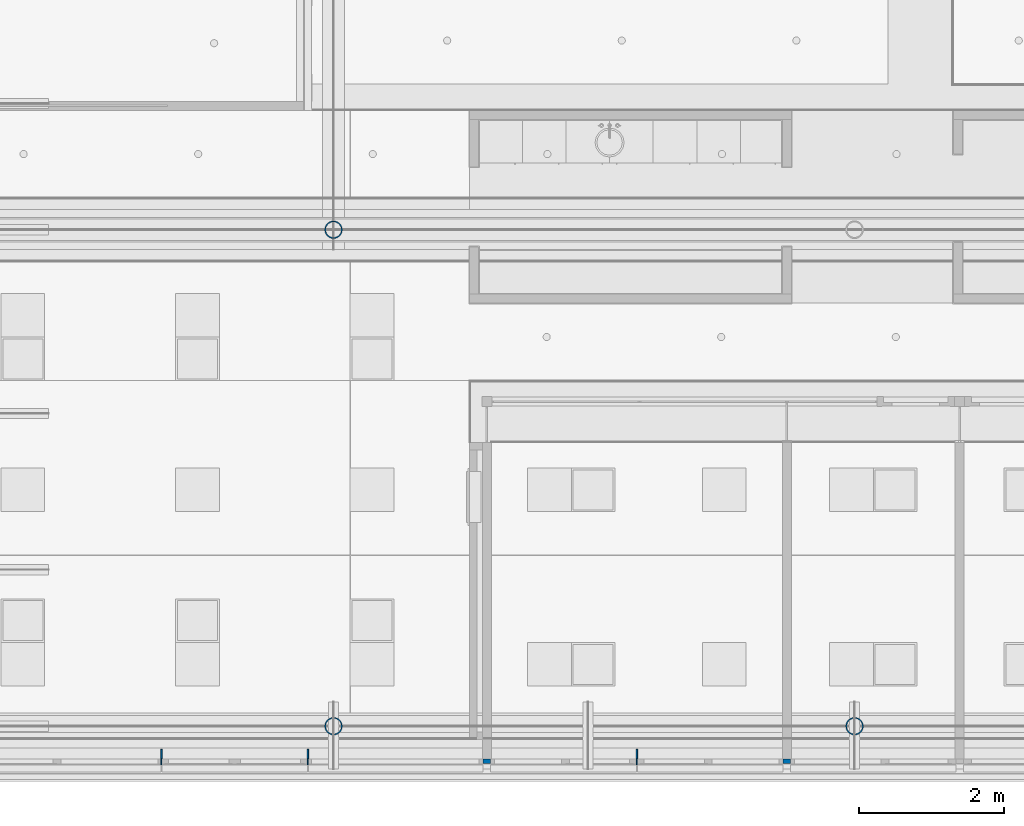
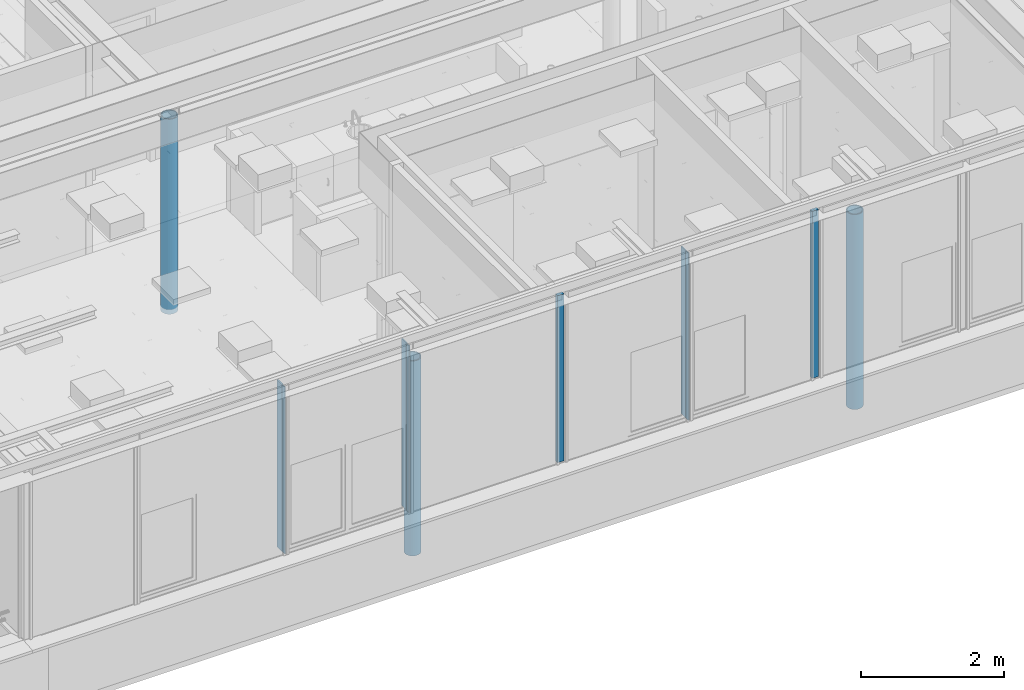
# One storey, part 7 of 260: 11 columns.
"""IFC2X3 building model written with IfcOpenShell, lengths in millimetres."""

from ifc_helpers import new_model, entity, si_unit, converted_unit, derived_unit, money_unit, direction, frame, origin_with_axes, place, context, subcontext, project, spatial, faceted_brep, material, type_object, element, save


model = new_model("IFC2X3")

# Units and contexts
model_context = context("Model", 3, precision=0.01, world=origin_with_axes(), true_north=direction((0.0, 1.0)))
plan_context = context("Plan", 3, precision=0.01, world=origin_with_axes(), true_north=direction((0.0, 1.0)))
body_context = subcontext(model_context, "Body", "Model", "MODEL_VIEW")
ifc_project = project(units=[si_unit("LENGTHUNIT", "METRE", prefix="MILLI"), si_unit("AREAUNIT", "SQUARE_METRE"), si_unit("VOLUMEUNIT", "CUBIC_METRE"), converted_unit("PLANEANGLEUNIT", "DEGREE", entity("IfcPlaneAngleMeasure", 0.0174532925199), si_unit("PLANEANGLEUNIT", "RADIAN"), dimensions=[0, 0, 0, 0, 0, 0, 0]), money_unit("EUR"), converted_unit("TIMEUNIT", "Year", entity("IfcTimeMeasure", 31556926.0), si_unit("TIMEUNIT", "SECOND"), dimensions=[0, 0, 1, 0, 0, 0, 0]), si_unit("MASSUNIT", "GRAM", prefix="KILO"), si_unit("THERMODYNAMICTEMPERATUREUNIT", "DEGREE_CELSIUS"), si_unit("LUMINOUSINTENSITYUNIT", "LUMEN"), si_unit("ENERGYUNIT", "JOULE", prefix="MEGA"), derived_unit("THERMALCONDUCTANCEUNIT", [(si_unit("POWERUNIT", "WATT"), 1), (si_unit("LENGTHUNIT", "METRE"), -1), (si_unit("THERMODYNAMICTEMPERATUREUNIT", "KELVIN"), -1)]), derived_unit("SPECIFICHEATCAPACITYUNIT", [(si_unit("ENERGYUNIT", "JOULE"), 1), (si_unit("MASSUNIT", "GRAM", prefix="KILO"), -1), (si_unit("THERMODYNAMICTEMPERATUREUNIT", "KELVIN"), -1)]), derived_unit("MASSDENSITYUNIT", [(si_unit("MASSUNIT", "GRAM", prefix="KILO"), 1), (si_unit("VOLUMEUNIT", "CUBIC_METRE"), -1)])], contexts=[model_context, plan_context])

# Site, building, storey
site_placement = place(None, origin_with_axes())
site = spatial("IfcSite", under=ifc_project, at=site_placement, Name="Site", CompositionType="ELEMENT")
building_placement = place(site_placement, origin_with_axes())
building = spatial("IfcBuilding", under=site, at=building_placement, Name="Naam gebouw", CompositionType="ELEMENT")
storey_placement = place(building_placement, frame((0.0, 0.0, 3960.0), z_axis=(0.0, 0.0, 1.0), x_axis=(1.0, 0.0, 0.0)))
storey = spatial("IfcBuildingStorey", under=building, at=storey_placement, Name="verdieping", CompositionType="ELEMENT", Elevation=3960.0)

# Columns
ifc_material_1 = material(Name="Metaal - Staal C wit")
column_type_1 = type_object("IfcColumnType", Name="Lucht D245", PredefinedType="COLUMN")
column_1_placement = place(storey_placement, frame((24575.0, 12125.0, -80.0), z_axis=(0.0, 0.0, 1.0), x_axis=(1.0, 0.0, 0.0)))
element("IfcColumn", 1, at=column_1_placement, inside=storey, type_object=column_type_1, material=ifc_material_1, Name="28_kolom ø 273mm", ObjectType="COLUMN", context=body_context, shape_type="Brep", body=[
    faceted_brep([(119.184937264, 27.2031841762, 0.0), (110.143444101, 53.0422871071, 0.0), (110.143444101, 53.0422871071, 3340.0), (119.184937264, 27.2031841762, 3340.0), (122.25, 0.0, 0.0), (119.184937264, -27.2031841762, 0.0), (110.143444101, -53.0422871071, 0.0), (95.5788987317, -76.2216282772, 0.0), (76.2216282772, -95.5788987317, 0.0), (53.0422871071, -110.143444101, 0.0), (27.2031841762, -119.184937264, 0.0), (0.0, -122.25, 0.0), (-27.2031841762, -119.184937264, 0.0), (-53.0422871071, -110.143444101, 0.0), (-76.2216282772, -95.5788987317, 0.0), (-95.5788987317, -76.2216282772, 0.0), (-110.143444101, -53.0422871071, 0.0), (-119.184937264, -27.2031841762, 0.0), (-122.25, 0.0, 0.0), (-119.184937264, 27.2031841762, 0.0), (-110.143444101, 53.0422871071, 0.0), (-95.5788987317, 76.2216282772, 0.0), (-76.2216282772, 95.5788987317, 0.0), (-53.0422871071, 110.143444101, 0.0), (-27.2031841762, 119.184937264, 0.0), (0.0, 122.25, 0.0), (27.2031841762, 119.184937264, 0.0), (53.0422871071, 110.143444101, 0.0), (76.2216282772, 95.5788987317, 0.0), (95.5788987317, 76.2216282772, 0.0), (102.629619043, -27.4995235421, 0.0), (106.25, 0.0, 0.0), (102.629619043, 27.4995235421, 0.0), (92.0151991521, 53.125, 0.0), (75.1300955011, 75.1300955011, 0.0), (53.125, 92.0151991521, 0.0), (27.4995235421, 102.629619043, 0.0), (0.0, 106.25, 0.0), (-27.4995235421, 102.629619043, 0.0), (-53.125, 92.0151991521, 0.0), (-75.1300955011, 75.1300955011, 0.0), (-92.0151991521, 53.125, 0.0), (-102.629619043, 27.4995235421, 0.0), (-106.25, 0.0, 0.0), (-102.629619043, -27.4995235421, 0.0), (-92.0151991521, -53.125, 0.0), (-75.1300955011, -75.1300955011, 0.0), (-53.125, -92.0151991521, 0.0), (-27.4995235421, -102.629619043, 0.0), (0.0, -106.25, 0.0), (27.4995235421, -102.629619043, 0.0), (53.125, -92.0151991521, 0.0), (75.1300955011, -75.1300955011, 0.0), (92.0151991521, -53.125, 0.0), (95.5788987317, 76.2216282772, 3340.0), (76.2216282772, 95.5788987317, 3340.0), (53.0422871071, 110.143444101, 3340.0), (27.2031841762, 119.184937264, 3340.0), (0.0, 122.25, 3340.0), (-27.2031841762, 119.184937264, 3340.0), (-53.0422871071, 110.143444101, 3340.0), (-76.2216282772, 95.5788987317, 3340.0), (-95.5788987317, 76.2216282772, 3340.0), (-110.143444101, 53.0422871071, 3340.0), (-119.184937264, 27.2031841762, 3340.0), (-122.25, 0.0, 3340.0), (-119.184937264, -27.2031841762, 3340.0), (-110.143444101, -53.0422871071, 3340.0), (-95.5788987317, -76.2216282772, 3340.0), (-76.2216282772, -95.5788987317, 3340.0), (-53.0422871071, -110.143444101, 3340.0), (-27.2031841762, -119.184937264, 3340.0), (0.0, -122.25, 3340.0), (27.2031841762, -119.184937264, 3340.0), (53.0422871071, -110.143444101, 3340.0), (76.2216282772, -95.5788987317, 3340.0), (95.5788987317, -76.2216282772, 3340.0), (110.143444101, -53.0422871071, 3340.0), (119.184937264, -27.2031841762, 3340.0), (122.25, 0.0, 3340.0), (102.629619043, -27.4995235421, 3340.0), (92.0151991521, -53.125, 3340.0), (75.1300955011, -75.1300955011, 3340.0), (53.125, -92.0151991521, 3340.0), (27.4995235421, -102.629619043, 3340.0), (0.0, -106.25, 3340.0), (-27.4995235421, -102.629619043, 3340.0), (-53.125, -92.0151991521, 3340.0), (-75.1300955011, -75.1300955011, 3340.0), (-92.0151991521, -53.125, 3340.0), (-102.629619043, -27.4995235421, 3340.0), (-106.25, 0.0, 3340.0), (-102.629619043, 27.4995235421, 3340.0), (-92.0151991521, 53.125, 3340.0), (-75.1300955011, 75.1300955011, 3340.0), (-53.125, 92.0151991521, 3340.0), (-27.4995235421, 102.629619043, 3340.0), (0.0, 106.25, 3340.0), (27.4995235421, 102.629619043, 3340.0), (53.125, 92.0151991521, 3340.0), (75.1300955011, 75.1300955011, 3340.0), (92.0151991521, 53.125, 3340.0), (102.629619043, 27.4995235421, 3340.0), (106.25, 0.0, 3340.0)], [[[0, 1, 2, 3]], [[0, 4, 5, 6, 7, 8, 9, 10, 11, 12, 13, 14, 15, 16, 17, 18, 19, 20, 21, 22, 23, 24, 25, 26, 27, 28, 29, 1], [30, 31, 32, 33, 34, 35, 36, 37, 38, 39, 40, 41, 42, 43, 44, 45, 46, 47, 48, 49, 50, 51, 52, 53]], [[1, 29, 54, 2]], [[3, 2, 54, 55, 56, 57, 58, 59, 60, 61, 62, 63, 64, 65, 66, 67, 68, 69, 70, 71, 72, 73, 74, 75, 76, 77, 78, 79], [80, 81, 82, 83, 84, 85, 86, 87, 88, 89, 90, 91, 92, 93, 94, 95, 96, 97, 98, 99, 100, 101, 102, 103]], [[4, 0, 3, 79]], [[5, 4, 79, 78]], [[6, 5, 78, 77]], [[7, 6, 77, 76]], [[8, 7, 76, 75]], [[9, 8, 75, 74]], [[10, 9, 74, 73]], [[11, 10, 73, 72]], [[12, 11, 72, 71]], [[13, 12, 71, 70]], [[14, 13, 70, 69]], [[15, 14, 69, 68]], [[16, 15, 68, 67]], [[17, 16, 67, 66]], [[18, 17, 66, 65]], [[19, 18, 65, 64]], [[20, 19, 64, 63]], [[21, 20, 63, 62]], [[22, 21, 62, 61]], [[23, 22, 61, 60]], [[24, 23, 60, 59]], [[25, 24, 59, 58]], [[26, 25, 58, 57]], [[27, 26, 57, 56]], [[28, 27, 56, 55]], [[29, 28, 55, 54]], [[31, 30, 80, 103]], [[32, 31, 103, 102]], [[33, 32, 102, 101]], [[34, 33, 101, 100]], [[35, 34, 100, 99]], [[36, 35, 99, 98]], [[37, 36, 98, 97]], [[38, 37, 97, 96]], [[39, 38, 96, 95]], [[40, 39, 95, 94]], [[41, 40, 94, 93]], [[42, 41, 93, 92]], [[43, 42, 92, 91]], [[44, 43, 91, 90]], [[45, 44, 90, 89]], [[46, 45, 89, 88]], [[47, 46, 88, 87]], [[48, 47, 87, 86]], [[49, 48, 86, 85]], [[50, 49, 85, 84]], [[51, 50, 84, 83]], [[52, 51, 83, 82]], [[53, 52, 82, 81]], [[30, 53, 81, 80]]]),
])
column_2_placement = place(storey_placement, frame((31737.5, 5300.0, -80.0), z_axis=(0.0, 0.0, 1.0), x_axis=(1.0, 0.0, 0.0)))
element("IfcColumn", 2, at=column_2_placement, inside=storey, type_object=column_type_1, material=ifc_material_1, Name="28_kolom ø 273mm", ObjectType="COLUMN", context=body_context, shape_type="Brep", body=[
    faceted_brep([(119.184937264, 27.2031841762, 0.0), (110.143444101, 53.0422871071, 0.0), (110.143444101, 53.0422871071, 3340.0), (119.184937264, 27.2031841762, 3340.0), (122.25, 0.0, 0.0), (119.184937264, -27.2031841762, 0.0), (110.143444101, -53.0422871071, 0.0), (95.5788987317, -76.2216282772, 0.0), (76.2216282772, -95.5788987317, 0.0), (53.0422871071, -110.143444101, 0.0), (27.2031841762, -119.184937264, 0.0), (0.0, -122.25, 0.0), (-27.2031841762, -119.184937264, 0.0), (-53.0422871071, -110.143444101, 0.0), (-76.2216282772, -95.5788987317, 0.0), (-95.5788987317, -76.2216282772, 0.0), (-110.143444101, -53.0422871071, 0.0), (-119.184937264, -27.2031841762, 0.0), (-122.25, 0.0, 0.0), (-119.184937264, 27.2031841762, 0.0), (-110.143444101, 53.0422871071, 0.0), (-95.5788987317, 76.2216282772, 0.0), (-76.2216282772, 95.5788987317, 0.0), (-53.0422871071, 110.143444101, 0.0), (-27.2031841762, 119.184937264, 0.0), (0.0, 122.25, 0.0), (27.2031841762, 119.184937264, 0.0), (53.0422871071, 110.143444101, 0.0), (76.2216282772, 95.5788987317, 0.0), (95.5788987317, 76.2216282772, 0.0), (102.629619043, -27.4995235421, 0.0), (106.25, 0.0, 0.0), (102.629619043, 27.4995235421, 0.0), (92.0151991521, 53.125, 0.0), (75.1300955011, 75.1300955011, 0.0), (53.125, 92.0151991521, 0.0), (27.4995235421, 102.629619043, 0.0), (0.0, 106.25, 0.0), (-27.4995235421, 102.629619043, 0.0), (-53.125, 92.0151991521, 0.0), (-75.1300955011, 75.1300955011, 0.0), (-92.0151991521, 53.125, 0.0), (-102.629619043, 27.4995235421, 0.0), (-106.25, 0.0, 0.0), (-102.629619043, -27.4995235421, 0.0), (-92.0151991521, -53.125, 0.0), (-75.1300955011, -75.1300955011, 0.0), (-53.125, -92.0151991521, 0.0), (-27.4995235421, -102.629619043, 0.0), (0.0, -106.25, 0.0), (27.4995235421, -102.629619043, 0.0), (53.125, -92.0151991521, 0.0), (75.1300955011, -75.1300955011, 0.0), (92.0151991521, -53.125, 0.0), (95.5788987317, 76.2216282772, 3340.0), (76.2216282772, 95.5788987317, 3340.0), (53.0422871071, 110.143444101, 3340.0), (27.2031841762, 119.184937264, 3340.0), (0.0, 122.25, 3340.0), (-27.2031841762, 119.184937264, 3340.0), (-53.0422871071, 110.143444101, 3340.0), (-76.2216282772, 95.5788987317, 3340.0), (-95.5788987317, 76.2216282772, 3340.0), (-110.143444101, 53.0422871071, 3340.0), (-119.184937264, 27.2031841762, 3340.0), (-122.25, 0.0, 3340.0), (-119.184937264, -27.2031841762, 3340.0), (-110.143444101, -53.0422871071, 3340.0), (-95.5788987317, -76.2216282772, 3340.0), (-76.2216282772, -95.5788987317, 3340.0), (-53.0422871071, -110.143444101, 3340.0), (-27.2031841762, -119.184937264, 3340.0), (0.0, -122.25, 3340.0), (27.2031841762, -119.184937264, 3340.0), (53.0422871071, -110.143444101, 3340.0), (76.2216282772, -95.5788987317, 3340.0), (95.5788987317, -76.2216282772, 3340.0), (110.143444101, -53.0422871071, 3340.0), (119.184937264, -27.2031841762, 3340.0), (122.25, 0.0, 3340.0), (102.629619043, -27.4995235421, 3340.0), (92.0151991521, -53.125, 3340.0), (75.1300955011, -75.1300955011, 3340.0), (53.125, -92.0151991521, 3340.0), (27.4995235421, -102.629619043, 3340.0), (0.0, -106.25, 3340.0), (-27.4995235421, -102.629619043, 3340.0), (-53.125, -92.0151991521, 3340.0), (-75.1300955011, -75.1300955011, 3340.0), (-92.0151991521, -53.125, 3340.0), (-102.629619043, -27.4995235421, 3340.0), (-106.25, 0.0, 3340.0), (-102.629619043, 27.4995235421, 3340.0), (-92.0151991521, 53.125, 3340.0), (-75.1300955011, 75.1300955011, 3340.0), (-53.125, 92.0151991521, 3340.0), (-27.4995235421, 102.629619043, 3340.0), (0.0, 106.25, 3340.0), (27.4995235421, 102.629619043, 3340.0), (53.125, 92.0151991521, 3340.0), (75.1300955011, 75.1300955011, 3340.0), (92.0151991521, 53.125, 3340.0), (102.629619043, 27.4995235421, 3340.0), (106.25, 0.0, 3340.0)], [[[0, 1, 2, 3]], [[0, 4, 5, 6, 7, 8, 9, 10, 11, 12, 13, 14, 15, 16, 17, 18, 19, 20, 21, 22, 23, 24, 25, 26, 27, 28, 29, 1], [30, 31, 32, 33, 34, 35, 36, 37, 38, 39, 40, 41, 42, 43, 44, 45, 46, 47, 48, 49, 50, 51, 52, 53]], [[1, 29, 54, 2]], [[3, 2, 54, 55, 56, 57, 58, 59, 60, 61, 62, 63, 64, 65, 66, 67, 68, 69, 70, 71, 72, 73, 74, 75, 76, 77, 78, 79], [80, 81, 82, 83, 84, 85, 86, 87, 88, 89, 90, 91, 92, 93, 94, 95, 96, 97, 98, 99, 100, 101, 102, 103]], [[4, 0, 3, 79]], [[5, 4, 79, 78]], [[6, 5, 78, 77]], [[7, 6, 77, 76]], [[8, 7, 76, 75]], [[9, 8, 75, 74]], [[10, 9, 74, 73]], [[11, 10, 73, 72]], [[12, 11, 72, 71]], [[13, 12, 71, 70]], [[14, 13, 70, 69]], [[15, 14, 69, 68]], [[16, 15, 68, 67]], [[17, 16, 67, 66]], [[18, 17, 66, 65]], [[19, 18, 65, 64]], [[20, 19, 64, 63]], [[21, 20, 63, 62]], [[22, 21, 62, 61]], [[23, 22, 61, 60]], [[24, 23, 60, 59]], [[25, 24, 59, 58]], [[26, 25, 58, 57]], [[27, 26, 57, 56]], [[28, 27, 56, 55]], [[29, 28, 55, 54]], [[31, 30, 80, 103]], [[32, 31, 103, 102]], [[33, 32, 102, 101]], [[34, 33, 101, 100]], [[35, 34, 100, 99]], [[36, 35, 99, 98]], [[37, 36, 98, 97]], [[38, 37, 97, 96]], [[39, 38, 96, 95]], [[40, 39, 95, 94]], [[41, 40, 94, 93]], [[42, 41, 93, 92]], [[43, 42, 92, 91]], [[44, 43, 91, 90]], [[45, 44, 90, 89]], [[46, 45, 89, 88]], [[47, 46, 88, 87]], [[48, 47, 87, 86]], [[49, 48, 86, 85]], [[50, 49, 85, 84]], [[51, 50, 84, 83]], [[52, 51, 83, 82]], [[53, 52, 82, 81]], [[30, 53, 81, 80]]]),
])
column_3_placement = place(storey_placement, frame((24575.0, 5300.0, -80.0), z_axis=(0.0, 0.0, 1.0), x_axis=(1.0, 0.0, 0.0)))
element("IfcColumn", 3, at=column_3_placement, inside=storey, type_object=column_type_1, material=ifc_material_1, Name="28_kolom ø 273mm", ObjectType="COLUMN", context=body_context, shape_type="Brep", body=[
    faceted_brep([(119.184937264, 27.2031841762, 0.0), (110.143444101, 53.0422871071, 0.0), (110.143444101, 53.0422871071, 3340.0), (119.184937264, 27.2031841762, 3340.0), (122.25, 0.0, 0.0), (119.184937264, -27.2031841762, 0.0), (110.143444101, -53.0422871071, 0.0), (95.5788987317, -76.2216282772, 0.0), (76.2216282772, -95.5788987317, 0.0), (53.0422871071, -110.143444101, 0.0), (27.2031841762, -119.184937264, 0.0), (0.0, -122.25, 0.0), (-27.2031841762, -119.184937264, 0.0), (-53.0422871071, -110.143444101, 0.0), (-76.2216282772, -95.5788987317, 0.0), (-95.5788987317, -76.2216282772, 0.0), (-110.143444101, -53.0422871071, 0.0), (-119.184937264, -27.2031841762, 0.0), (-122.25, 0.0, 0.0), (-119.184937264, 27.2031841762, 0.0), (-110.143444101, 53.0422871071, 0.0), (-95.5788987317, 76.2216282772, 0.0), (-76.2216282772, 95.5788987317, 0.0), (-53.0422871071, 110.143444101, 0.0), (-27.2031841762, 119.184937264, 0.0), (0.0, 122.25, 0.0), (27.2031841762, 119.184937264, 0.0), (53.0422871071, 110.143444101, 0.0), (76.2216282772, 95.5788987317, 0.0), (95.5788987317, 76.2216282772, 0.0), (102.629619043, -27.4995235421, 0.0), (106.25, 0.0, 0.0), (102.629619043, 27.4995235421, 0.0), (92.0151991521, 53.125, 0.0), (75.1300955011, 75.1300955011, 0.0), (53.125, 92.0151991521, 0.0), (27.4995235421, 102.629619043, 0.0), (0.0, 106.25, 0.0), (-27.4995235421, 102.629619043, 0.0), (-53.125, 92.0151991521, 0.0), (-75.1300955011, 75.1300955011, 0.0), (-92.0151991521, 53.125, 0.0), (-102.629619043, 27.4995235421, 0.0), (-106.25, 0.0, 0.0), (-102.629619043, -27.4995235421, 0.0), (-92.0151991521, -53.125, 0.0), (-75.1300955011, -75.1300955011, 0.0), (-53.125, -92.0151991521, 0.0), (-27.4995235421, -102.629619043, 0.0), (0.0, -106.25, 0.0), (27.4995235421, -102.629619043, 0.0), (53.125, -92.0151991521, 0.0), (75.1300955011, -75.1300955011, 0.0), (92.0151991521, -53.125, 0.0), (95.5788987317, 76.2216282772, 3340.0), (76.2216282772, 95.5788987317, 3340.0), (53.0422871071, 110.143444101, 3340.0), (27.2031841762, 119.184937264, 3340.0), (0.0, 122.25, 3340.0), (-27.2031841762, 119.184937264, 3340.0), (-53.0422871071, 110.143444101, 3340.0), (-76.2216282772, 95.5788987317, 3340.0), (-95.5788987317, 76.2216282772, 3340.0), (-110.143444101, 53.0422871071, 3340.0), (-119.184937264, 27.2031841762, 3340.0), (-122.25, 0.0, 3340.0), (-119.184937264, -27.2031841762, 3340.0), (-110.143444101, -53.0422871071, 3340.0), (-95.5788987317, -76.2216282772, 3340.0), (-76.2216282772, -95.5788987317, 3340.0), (-53.0422871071, -110.143444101, 3340.0), (-27.2031841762, -119.184937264, 3340.0), (0.0, -122.25, 3340.0), (27.2031841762, -119.184937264, 3340.0), (53.0422871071, -110.143444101, 3340.0), (76.2216282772, -95.5788987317, 3340.0), (95.5788987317, -76.2216282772, 3340.0), (110.143444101, -53.0422871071, 3340.0), (119.184937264, -27.2031841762, 3340.0), (122.25, 0.0, 3340.0), (102.629619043, -27.4995235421, 3340.0), (92.0151991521, -53.125, 3340.0), (75.1300955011, -75.1300955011, 3340.0), (53.125, -92.0151991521, 3340.0), (27.4995235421, -102.629619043, 3340.0), (0.0, -106.25, 3340.0), (-27.4995235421, -102.629619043, 3340.0), (-53.125, -92.0151991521, 3340.0), (-75.1300955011, -75.1300955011, 3340.0), (-92.0151991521, -53.125, 3340.0), (-102.629619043, -27.4995235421, 3340.0), (-106.25, 0.0, 3340.0), (-102.629619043, 27.4995235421, 3340.0), (-92.0151991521, 53.125, 3340.0), (-75.1300955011, 75.1300955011, 3340.0), (-53.125, 92.0151991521, 3340.0), (-27.4995235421, 102.629619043, 3340.0), (0.0, 106.25, 3340.0), (27.4995235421, 102.629619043, 3340.0), (53.125, 92.0151991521, 3340.0), (75.1300955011, 75.1300955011, 3340.0), (92.0151991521, 53.125, 3340.0), (102.629619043, 27.4995235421, 3340.0), (106.25, 0.0, 3340.0)], [[[0, 1, 2, 3]], [[0, 4, 5, 6, 7, 8, 9, 10, 11, 12, 13, 14, 15, 16, 17, 18, 19, 20, 21, 22, 23, 24, 25, 26, 27, 28, 29, 1], [30, 31, 32, 33, 34, 35, 36, 37, 38, 39, 40, 41, 42, 43, 44, 45, 46, 47, 48, 49, 50, 51, 52, 53]], [[1, 29, 54, 2]], [[3, 2, 54, 55, 56, 57, 58, 59, 60, 61, 62, 63, 64, 65, 66, 67, 68, 69, 70, 71, 72, 73, 74, 75, 76, 77, 78, 79], [80, 81, 82, 83, 84, 85, 86, 87, 88, 89, 90, 91, 92, 93, 94, 95, 96, 97, 98, 99, 100, 101, 102, 103]], [[4, 0, 3, 79]], [[5, 4, 79, 78]], [[6, 5, 78, 77]], [[7, 6, 77, 76]], [[8, 7, 76, 75]], [[9, 8, 75, 74]], [[10, 9, 74, 73]], [[11, 10, 73, 72]], [[12, 11, 72, 71]], [[13, 12, 71, 70]], [[14, 13, 70, 69]], [[15, 14, 69, 68]], [[16, 15, 68, 67]], [[17, 16, 67, 66]], [[18, 17, 66, 65]], [[19, 18, 65, 64]], [[20, 19, 64, 63]], [[21, 20, 63, 62]], [[22, 21, 62, 61]], [[23, 22, 61, 60]], [[24, 23, 60, 59]], [[25, 24, 59, 58]], [[26, 25, 58, 57]], [[27, 26, 57, 56]], [[28, 27, 56, 55]], [[29, 28, 55, 54]], [[31, 30, 80, 103]], [[32, 31, 103, 102]], [[33, 32, 102, 101]], [[34, 33, 101, 100]], [[35, 34, 100, 99]], [[36, 35, 99, 98]], [[37, 36, 98, 97]], [[38, 37, 97, 96]], [[39, 38, 96, 95]], [[40, 39, 95, 94]], [[41, 40, 94, 93]], [[42, 41, 93, 92]], [[43, 42, 92, 91]], [[44, 43, 91, 90]], [[45, 44, 90, 89]], [[46, 45, 89, 88]], [[47, 46, 88, 87]], [[48, 47, 87, 86]], [[49, 48, 86, 85]], [[50, 49, 85, 84]], [[51, 50, 84, 83]], [[52, 51, 83, 82]], [[53, 52, 82, 81]], [[30, 53, 81, 80]]]),
])
column_type_2 = type_object("IfcColumnType", Name="Metaal - Staal C wit 20 x 130", PredefinedType="COLUMN")
for number, where, z_axis, x_axis, name in (
    (4, (28745.0, 4915.0, 1020.0), (0.0, 0.0, 1.0), (1.0, 0.0, 0.0), "28_kolom koker"),
    (5, (22207.5, 4915.0, 1020.0), (0.0, 0.0, 1.0), (1.0, 0.0, 0.0), "28_kolom koker"),
    (6, (24222.5, 4915.0, 1020.0), (0.0, 0.0, 1.0), (1.0, 0.0, 0.0), "28_kolom koker"),
):
    element("IfcColumn", number, at=place(storey_placement, frame(where, z_axis=z_axis, x_axis=x_axis)), inside=storey, type_object=column_type_2, material=ifc_material_1, Name=name, ObjectType="COLUMN", context=body_context, shape_type="Brep", body=[
        faceted_brep([(-10.0, -65.0, 2860.0), (-10.0, -65.0, 0.0), (10.0, -65.0, 0.0), (10.0, -65.0, 2860.0), (-10.0, 65.0, 2860.0), (-10.0, 65.0, 0.0), (10.0, 65.0, 0.0), (10.0, 65.0, 2860.0)], [[[0, 1, 2, 3]], [[4, 5, 1, 0]], [[2, 1, 5, 6]], [[3, 2, 6, 7]], [[4, 0, 3, 7]], [[7, 6, 5, 4]]]),
    ])
ifc_material_2 = material(Name="Metaal - Aluminium beige")
column_type_3 = type_object("IfcColumnType", Name="Metaal - Aluminium beige 15 x 80", PredefinedType="COLUMN")
for number, where, z_axis, x_axis, name in (
    (7, (22207.5, 4809.99992429, 1020.0), (0.0, 0.0, 1.0), (1.0, 0.0, 0.0), "28_kolom koker"),
    (8, (28745.0, 4809.99992429, 1020.0), (0.0, 0.0, 1.0), (1.0, 0.0, 0.0), "28_kolom koker"),
    (9, (24222.5, 4809.99992429, 1020.0), (0.0, 0.0, 1.0), (1.0, 0.0, 0.0), "28_kolom koker"),
):
    element("IfcColumn", number, at=place(storey_placement, frame(where, z_axis=z_axis, x_axis=x_axis)), inside=storey, type_object=column_type_3, material=ifc_material_2, Name=name, ObjectType="COLUMN", context=body_context, shape_type="Brep", body=[
        faceted_brep([(-7.5, -40.0, 2860.0), (-7.5, -40.0, 0.0), (7.5, -40.0, 0.0), (7.5, -40.0, 2860.0), (-7.5, 40.0, 2860.0), (-7.5, 40.0, 0.0), (7.5, 40.0, 0.0), (7.5, 40.0, 2860.0)], [[[0, 1, 2, 3]], [[4, 5, 1, 0]], [[2, 1, 5, 6]], [[3, 2, 6, 7]], [[4, 0, 3, 7]], [[7, 6, 5, 4]]]),
    ])
ifc_material_3 = material(Name="Isolatie - Kunststof hard")
column_type_4 = type_object("IfcColumnType", Name="Isolatie - Kunststof hard 105 x 60", PredefinedType="COLUMN")
for number, where, z_axis, x_axis, name in (
    (10, (26682.5, 4819.99992429, 1020.0), (0.0, 0.0, 1.0), (1.0, 0.0, 0.0), "28_kolom koker"),
    (11, (30807.5, 4819.99992429, 1020.0), (0.0, 0.0, 1.0), (1.0, 0.0, 0.0), "28_kolom koker"),
):
    element("IfcColumn", number, at=place(storey_placement, frame(where, z_axis=z_axis, x_axis=x_axis)), inside=storey, type_object=column_type_4, material=ifc_material_3, Name=name, ObjectType="COLUMN", context=body_context, shape_type="Brep", body=[
        faceted_brep([(-52.5, -30.0, 2860.0), (-52.5, -30.0, 0.0), (52.5, -30.0, 0.0), (52.5, -30.0, 2860.0), (-52.5, 30.0, 2860.0), (-52.5, 30.0, 0.0), (52.5, 30.0, 0.0), (52.5, 30.0, 2860.0)], [[[0, 1, 2, 3]], [[4, 5, 1, 0]], [[2, 1, 5, 6]], [[3, 2, 6, 7]], [[4, 0, 3, 7]], [[7, 6, 5, 4]]]),
    ])

save(model, "model.ifc")
